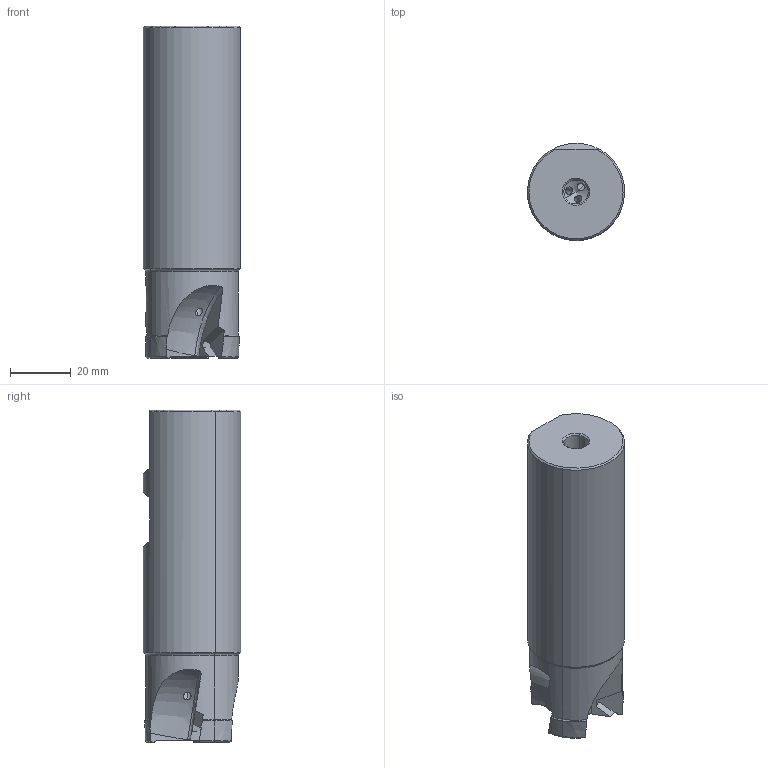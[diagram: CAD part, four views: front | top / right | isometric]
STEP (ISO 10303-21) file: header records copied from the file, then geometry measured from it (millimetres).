
FILE_DESCRIPTION(('CATIA V5 STEP'),'2;1');
FILE_NAME('I:\isr\design\admin8\users\yousef_k\3106417-D.stp','2012-11-18T05:56:42+00:00',('none'),('none'),'CATIA Version 5 Release 21 SP 3 (IN-10)','CATIA V5 STEP AP214','none');
FILE_SCHEMA(('AUTOMOTIVE_DESIGN { 1 0 10303 214 1 1 1 1 }'));
Length unit declared in the file: millimetre
Products named in the file (1): 61070784_0  HM390 ETP D32-3-W32-10
Bounding box: 31.99 x 31.99 x 109.4 mm (x, y, z)
Volume: 74428.7 mm3; surface area: 14951.5 mm2
Topology: 1 solids, 1 shells, 85 faces, 231 edges, 147 vertices
Faces by surface type: plane 25, cylinder 21, torus 21, cone 15, revolution 3
Entity records: 2891 total; most frequent: CARTESIAN_POINT 1010, ORIENTED_EDGE 458, DIRECTION 259, EDGE_CURVE 229, VERTEX_POINT 147, AXIS2_PLACEMENT_3D 124, B_SPLINE_CURVE_WITH_KNOTS 94, EDGE_LOOP 92
